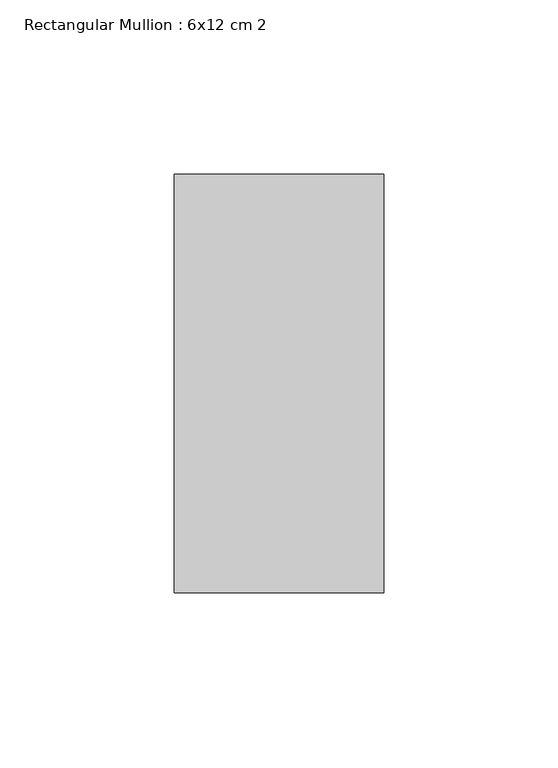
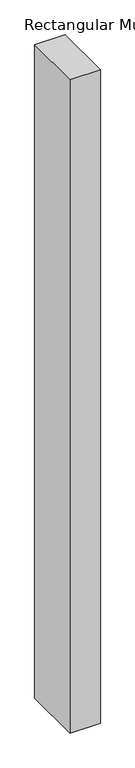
"""IFC4 building model written with IfcOpenShell, lengths in millimetres: member geometry, Rectangular Mullion : 6x12 cm 2."""

from ifc_helpers import new_model, si_unit, frame, origin, place, context, project, spatial, polyline, outline, extrude, source, transform, mapped, element, save


def rectangular_mullion_6x12_cm_2_2143e5b0(model_context):
    return source(origin(), model_context, "Body", "SweptSolid", [
        extrude(outline(polyline([(0.0, 205.0), (0.0, 85.0), (-60.0, 85.0), (-60.0, 205.0), (0.0, 205.0)])), frame((0.0, 0.0, -1360.0859911), z_axis=(0.0, 0.0, 1.0), x_axis=(1.0, 0.0, 0.0)), (0.0, 0.0, 1.0), 1360.0859911),
    ])


if __name__ == "__main__":
    model = new_model("IFC4")
    model_context = context("Model", 3, world=origin())
    ifc_project = project(units=[si_unit("LENGTHUNIT", "METRE", prefix="MILLI")], contexts=[model_context])
    site = spatial("IfcSite", under=ifc_project)
    building = spatial("IfcBuilding", under=site)
    placement = place(None, origin())
    rectangular_mullion_6x12_cm_2_shape = rectangular_mullion_6x12_cm_2_2143e5b0(model_context)
    element("IfcMember", 1, ObjectType="Rectangular Mullion : 6x12 cm 2", at=placement, inside=building, context=model_context, shape_type="MappedRepresentation", body=[
        mapped(rectangular_mullion_6x12_cm_2_shape, transform((0.0, 0.0, 0.0), x_axis=(1.0, 0.0, 0.0), y_axis=(0.0, 1.0, 0.0), z_axis=(0.0, 0.0, 1.0))),
    ])
    save(model, "model.ifc")
